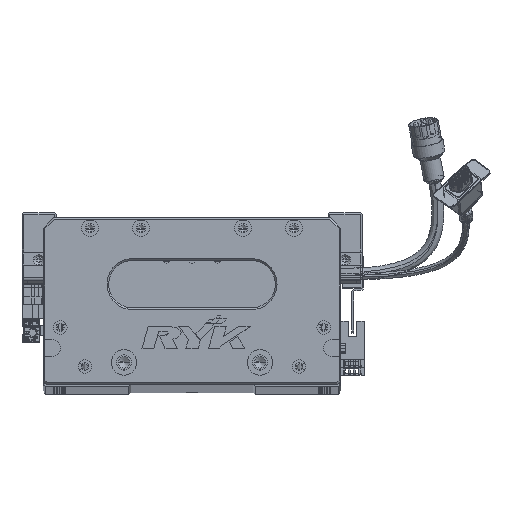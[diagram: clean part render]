
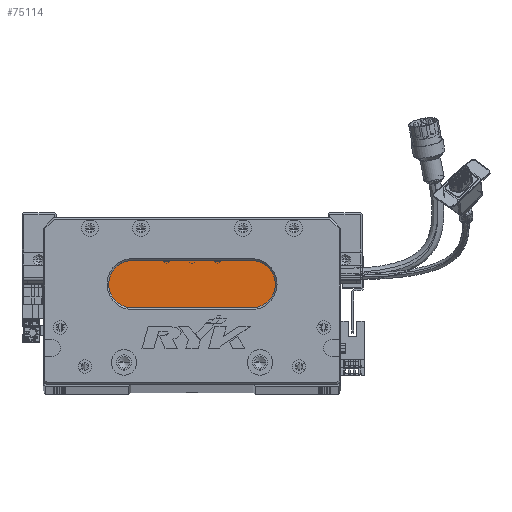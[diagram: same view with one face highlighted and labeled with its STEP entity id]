
A CAD part, top view. The second image highlights one B-rep face of the part: STEP entity #75114.
In plain terms, the highlighted planar face has unit normal (0, 0, 1) as drawn and (0, 0, -1) by its records, which use the part's own axes.
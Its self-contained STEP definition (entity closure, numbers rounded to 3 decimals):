
#1711 = CIRCLE ( 'NONE', #105906, 14. ) ;
#4439 = CARTESIAN_POINT ( 'NONE',  ( 122.5, 45., 18. ) ) ;
#6752 = CARTESIAN_POINT ( 'NONE',  ( 52.5, 45., 18. ) ) ;
#8064 = VECTOR ( 'NONE', #68280, 1000. ) ;
#12412 = ORIENTED_EDGE ( 'NONE', *, *, #74176, .T. ) ;
#12473 = ORIENTED_EDGE ( 'NONE', *, *, #26784, .T. ) ;
#17563 = CARTESIAN_POINT ( 'NONE',  ( 122.5, 73., 18. ) ) ;
#17997 = CARTESIAN_POINT ( 'NONE',  ( 122.5, 45., 18. ) ) ;
#18770 = CIRCLE ( 'NONE', #80591, 14. ) ;
#19439 = DIRECTION ( 'NONE',  ( -1., 0., 0. ) ) ;
#19500 = VERTEX_POINT ( 'NONE', #6752 ) ;
#26784 = EDGE_CURVE ( 'NONE', #19500, #107962, #1711, .T. ) ;
#27765 = CARTESIAN_POINT ( 'NONE',  ( 122.5, 73., 18. ) ) ;
#29950 = DIRECTION ( 'NONE',  ( -1., 0., 0. ) ) ;
#34731 = CIRCLE ( 'NONE', #42891, 14. ) ;
#37886 = LINE ( 'NONE', #17563, #62974 ) ;
#38567 = CARTESIAN_POINT ( 'NONE',  ( 52.5, 73., 18. ) ) ;
#38917 = VERTEX_POINT ( 'NONE', #38567 ) ;
#42891 = AXIS2_PLACEMENT_3D ( 'NONE', #44296, #74464, #84476 ) ;
#43884 = ORIENTED_EDGE ( 'NONE', *, *, #114146, .T. ) ;
#44296 = CARTESIAN_POINT ( 'NONE',  ( 52.5, 59., 18. ) ) ;
#46032 = DIRECTION ( 'NONE',  ( -1., 0., 0. ) ) ;
#48305 = CARTESIAN_POINT ( 'NONE',  ( 122.5, 59., 18. ) ) ;
#49709 = VERTEX_POINT ( 'NONE', #27765 ) ;
#60495 = AXIS2_PLACEMENT_3D ( 'NONE', #48305, #109961, #19439 ) ;
#62974 = VECTOR ( 'NONE', #115966, 1000. ) ;
#68280 = DIRECTION ( 'NONE',  ( -1., 0., 0. ) ) ;
#68896 = DIRECTION ( 'NONE',  ( 0., 0., -1. ) ) ;
#72437 = ORIENTED_EDGE ( 'NONE', *, *, #75485, .T. ) ;
#74176 = EDGE_CURVE ( 'NONE', #107962, #38917, #34731, .T. ) ;
#74279 = EDGE_CURVE ( 'NONE', #38917, #49709, #37886, .T. ) ;
#74464 = DIRECTION ( 'NONE',  ( 0., 0., -1. ) ) ;
#75114 = ADVANCED_FACE ( 'NONE', ( #75264 ), #79777, .T. ) ;
#75264 = FACE_OUTER_BOUND ( 'NONE', #108212, .T. ) ;
#75485 = EDGE_CURVE ( 'NONE', #49709, #77954, #18770, .T. ) ;
#77954 = VERTEX_POINT ( 'NONE', #4439 ) ;
#79777 = PLANE ( 'NONE',  #60495 ) ;
#80591 = AXIS2_PLACEMENT_3D ( 'NONE', #115534, #94580, #46032 ) ;
#80794 = ORIENTED_EDGE ( 'NONE', *, *, #74279, .T. ) ;
#84476 = DIRECTION ( 'NONE',  ( -1., 0., 0. ) ) ;
#92426 = LINE ( 'NONE', #17997, #8064 ) ;
#94580 = DIRECTION ( 'NONE',  ( 0., 0., -1. ) ) ;
#105906 = AXIS2_PLACEMENT_3D ( 'NONE', #129510, #68896, #29950 ) ;
#107962 = VERTEX_POINT ( 'NONE', #116767 ) ;
#108212 = EDGE_LOOP ( 'NONE', ( #72437, #43884, #12473, #12412, #80794 ) ) ;
#109961 = DIRECTION ( 'NONE',  ( 0., 0., -1. ) ) ;
#114146 = EDGE_CURVE ( 'NONE', #77954, #19500, #92426, .T. ) ;
#115534 = CARTESIAN_POINT ( 'NONE',  ( 122.5, 59., 18. ) ) ;
#115966 = DIRECTION ( 'NONE',  ( 1., 0., 0. ) ) ;
#116767 = CARTESIAN_POINT ( 'NONE',  ( 38.5, 59., 18. ) ) ;
#129510 = CARTESIAN_POINT ( 'NONE',  ( 52.5, 59., 18. ) ) ;
